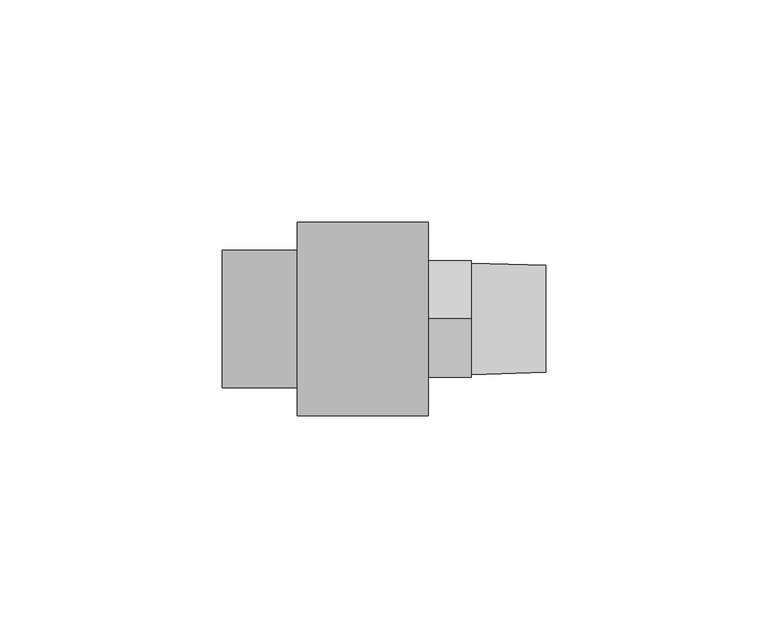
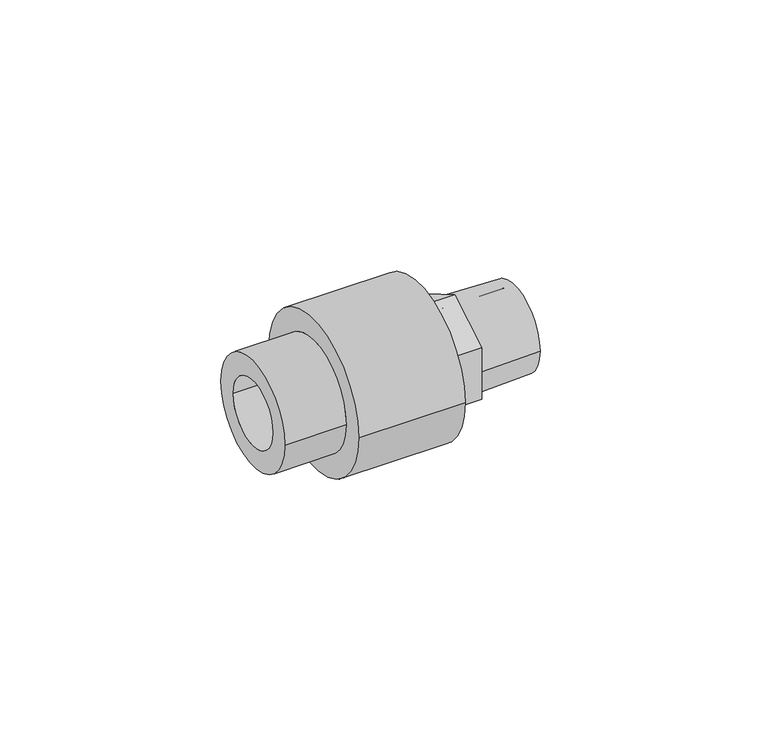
"""IFC4 building model written with IfcOpenShell, lengths in millimetres: pipe fitting geometry, Aquatherm - Fusion Outlet Transition Male : POTABLE BRASS - HEX."""

from ifc_helpers import new_model, si_unit, frame, origin, place, context, project, spatial, polyline, circle_curve, source, transform, mapped, element, save
from ifc_brep_helpers import plane_surface, cylinder_surface, revolved_surface, advanced_brep


def pipe_fitting_e9b5944d(model_context):
    return source(origin(), model_context, "Body", "AdvancedBrep", [
        advanced_brep(
        [(9.1241563, 15.494, 0.0), (9.1241563, -15.494, 0.0), (9.1241563, 9.525, 0.0), (9.1241563, -9.525, 0.0), (29.4441563, 15.494, 0.0), (29.4441563, -15.494, 0.0), (29.4441563, 0.0, -15.1046377), (29.4441563, -13.081, -7.5523189), (29.4441563, -13.081, 7.5523189), (29.4441563, 0.0, 15.1046377), (29.4441563, 13.081, 7.5523189), (29.4441563, 13.081, -7.5523189), (29.4441563, 9.525, 0.0), (29.4441563, -9.525, 0.0), (39.0961563, 0.0, -15.1046377), (39.0961563, 13.081, -7.5523189), (39.0961563, 13.081, 7.5523189), (39.0961563, 0.0, 15.1046377), (39.0961563, -13.081, 7.5523189), (39.0961563, -13.081, -7.5523189), (39.0961563, 12.5560449, 0.0), (39.0961563, -12.5560449, 0.0), (39.0961563, 9.525, 0.0), (39.0961563, -9.525, 0.0), (55.8601563, -9.525, 0.0), (55.8601563, 9.525, 0.0), (55.8601563, -12.0502051, 0.0), (55.8601563, 12.0502051, 0.0)],
        [
            (0, 1, circle_curve(frame((9.1241563, 0.0, 0.0), z_axis=(-1.0, 0.0, 0.0), x_axis=(0.0, -1.0, 0.0)), 15.494)),
            (1, 0, circle_curve(frame((9.1241563, 0.0, 0.0), z_axis=(-1.0, 0.0, 0.0), x_axis=(0.0, -1.0, 0.0)), 15.494)),
            (2, 3, circle_curve(frame((9.1241563, 0.0, 0.0), z_axis=(1.0, 0.0, 0.0), x_axis=(0.0, -1.0, 0.0)), 9.525)),
            (3, 2, circle_curve(frame((9.1241563, 0.0, 0.0), z_axis=(1.0, 0.0, 0.0), x_axis=(0.0, -1.0, 0.0)), 9.525)),
            (4, 5, circle_curve(frame((29.4441563, 0.0, 0.0), z_axis=(1.0, 0.0, 0.0), x_axis=(0.0, -1.0, 0.0)), 15.494)),
            (5, 4, circle_curve(frame((29.4441563, 0.0, 0.0), z_axis=(1.0, 0.0, 0.0), x_axis=(0.0, -1.0, 0.0)), 15.494)),
            (6, 7),
            (7, 8),
            (8, 9),
            (9, 10),
            (10, 11),
            (11, 6),
            (0, 4),
            (5, 1),
            (2, 12),
            (12, 13, circle_curve(frame((29.4441563, 0.0, 0.0), z_axis=(1.0, 0.0, 0.0), x_axis=(0.0, -1.0, 0.0)), 9.525)),
            (13, 3),
            (13, 12, circle_curve(frame((29.4441563, 0.0, 0.0), z_axis=(1.0, 0.0, 0.0), x_axis=(0.0, -1.0, 0.0)), 9.525)),
            (14, 15),
            (15, 16),
            (16, 17),
            (17, 18),
            (18, 19),
            (19, 14),
            (20, 21, circle_curve(frame((39.0961563, 0.0, 0.0), z_axis=(-1.0, 0.0, 0.0), x_axis=(0.0, -1.0, 0.0)), 12.5560449)),
            (21, 20, circle_curve(frame((39.0961563, 0.0, 0.0), z_axis=(-1.0, 0.0, 0.0), x_axis=(0.0, -1.0, 0.0)), 12.5560449)),
            (19, 7),
            (6, 14),
            (18, 8),
            (17, 9),
            (16, 10),
            (15, 11),
            (12, 22),
            (22, 23, circle_curve(frame((39.0961563, 0.0, 0.0), z_axis=(1.0, 0.0, 0.0), x_axis=(0.0, -1.0, 0.0)), 9.525)),
            (23, 13),
            (23, 22, circle_curve(frame((39.0961563, 0.0, 0.0), z_axis=(1.0, 0.0, 0.0), x_axis=(0.0, -1.0, 0.0)), 9.525)),
            (23, 24),
            (24, 25, circle_curve(frame((55.8601563, 0.0, 0.0), z_axis=(1.0, 0.0, 0.0), x_axis=(0.0, -1.0, 0.0)), 9.525)),
            (25, 22),
            (25, 24, circle_curve(frame((55.8601563, 0.0, 0.0), z_axis=(1.0, 0.0, 0.0), x_axis=(0.0, -1.0, 0.0)), 9.525)),
            (24, 26),
            (26, 27, circle_curve(frame((55.8601563, 0.0, 0.0), z_axis=(1.0, 0.0, 0.0), x_axis=(0.0, -1.0, 0.0)), 12.0502051)),
            (27, 25),
            (27, 26, circle_curve(frame((55.8601563, 0.0, 0.0), z_axis=(1.0, 0.0, 0.0), x_axis=(0.0, -1.0, 0.0)), 12.0502051)),
            (26, 21),
            (20, 27),
        ],
        [
            plane_surface(frame((9.1241563, -15.494, 0.0), z_axis=(-1.0, 0.0, 0.0), x_axis=(0.0, 0.0, 1.0))),
            plane_surface(frame((29.4441563, -15.494, 0.0), z_axis=(1.0, 0.0, 0.0), x_axis=(0.0, 0.0, -1.0))),
            cylinder_surface(frame((29.4441563, 0.0, 0.0), z_axis=(-1.0, 0.0, 0.0), x_axis=(0.0, -1.0, 0.0)), 15.494),
            revolved_surface(polyline([(29.444156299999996, -9.525, 0.0), (9.1241563, -9.525, 0.0)]), (11.9969372, 0.0, 0.0), (1.0, 0.0, 0.0)),
            plane_surface(frame((39.0961563, 0.0, -15.1046377), z_axis=(1.0000000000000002, 0.0, 0.0), x_axis=(0.0, 0.8660254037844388, -0.49999999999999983))),
            plane_surface(frame((29.4441563, 0.0, -15.1046377), z_axis=(0.0, -0.49999999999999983, -0.8660254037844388), x_axis=(1.0, 0.0, 0.0))),
            plane_surface(frame((29.4441563, -13.081, -7.5523189), z_axis=(0.0, -1.0, 0.0), x_axis=(1.0, 0.0, 0.0))),
            plane_surface(frame((29.4441563, -13.081, 7.5523189), z_axis=(0.0, -0.4999999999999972, 0.8660254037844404), x_axis=(1.0, 0.0, 0.0))),
            plane_surface(frame((29.4441563, 0.0, 15.1046377), z_axis=(0.0, 0.500000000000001, 0.8660254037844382), x_axis=(1.0, 0.0, 0.0))),
            plane_surface(frame((29.4441563, 13.081, 7.5523189), z_axis=(0.0, 1.0, 0.0), x_axis=(1.0, 0.0, 0.0))),
            plane_surface(frame((29.4441563, 13.081, -7.5523189), z_axis=(0.0, 0.49999999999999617, -0.8660254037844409), x_axis=(1.0, 0.0, 0.0))),
            revolved_surface(polyline([(39.0961563, -9.525, 0.0), (29.4441563, -9.525, 0.0)]), (29.4441563, 0.0, 0.0), (1.0, 0.0, 0.0)),
            revolved_surface(polyline([(55.8601563, -9.525, 0.0), (39.0961563, -9.525, 0.0)]), (90.7332251, 0.0, 0.0), (1.0, 0.0, 0.0)),
            plane_surface(frame((55.8601563, 0.0, 0.0), z_axis=(1.0, 0.0, 0.0), x_axis=(0.0, -1.0, 0.0))),
            revolved_surface(polyline([(39.0961563, -12.5560449, 0.0), (55.8601563, -12.0502051, 0.0)]), (90.7332251, 0.0, 0.0), (1.0, 0.0, 0.0)),
        ],
        [
            (0, [[1, 2], [3, 4]]),
            (1, [[5, 6], [7, 8, 9, 10, 11, 12]]),
            (2, [[-1, 13, -6, 14]]),
            (2, [[-2, -14, -5, -13]]),
            (3, [[-3, 15, 16, 17]]),
            (3, [[-4, -17, 18, -15]]),
            (4, [[19, 20, 21, 22, 23, 24], [25, 26]]),
            (5, [[-24, 27, -7, 28]]),
            (6, [[-23, 29, -8, -27]]),
            (7, [[-22, 30, -9, -29]]),
            (8, [[-21, 31, -10, -30]]),
            (9, [[-20, 32, -11, -31]]),
            (10, [[-19, -28, -12, -32]]),
            (11, [[33, 34, 35, -16]]),
            (11, [[-33, -18, -35, 36]]),
            (12, [[37, 38, 39, -36]]),
            (12, [[-37, -34, -39, 40]]),
            (13, [[-38, 41, 42, 43]]),
            (13, [[-40, -43, 44, -41]]),
            (14, [[-42, 45, -25, 46]]),
            (14, [[-44, -46, -26, -45]]),
        ],
    ),
        advanced_brep(
        [(9.128125, 15.478125, 0.0), (9.128125, -15.478125, 0.0), (9.128125, 9.525, 0.0), (9.128125, -9.525, 0.0), (-16.8875676, -9.525, 0.0), (-16.8875676, 9.525, 0.0), (-16.8875676, -15.478125, 0.0), (-16.8875676, 15.478125, 0.0), (0.0, 15.478125, 0.0), (0.0, -15.478125, 0.0), (29.4441562, 21.7289063, 0.0), (29.4441562, -21.7289063, 0.0), (29.4441562, 15.478125, 0.0), (29.4441562, -15.478125, 0.0), (0.0, -21.7289063, 0.0), (0.0, 21.7289063, 0.0)],
        [
            (0, 1, circle_curve(frame((9.128125, 0.0, 0.0), z_axis=(1.0, 0.0, 0.0), x_axis=(0.0, -1.0, 0.0)), 15.478125)),
            (1, 0, circle_curve(frame((9.128125, 0.0, 0.0), z_axis=(1.0, 0.0, 0.0), x_axis=(0.0, -1.0, 0.0)), 15.478125)),
            (2, 3, circle_curve(frame((9.128125, 0.0, 0.0), z_axis=(-1.0, 0.0, 0.0), x_axis=(0.0, -1.0, 0.0)), 9.525)),
            (3, 2, circle_curve(frame((9.128125, 0.0, 0.0), z_axis=(-1.0, 0.0, 0.0), x_axis=(0.0, -1.0, 0.0)), 9.525)),
            (4, 5, circle_curve(frame((-16.8875676, 0.0, 0.0), z_axis=(-1.0, 0.0, 0.0), x_axis=(0.0, -1.0, 0.0)), 9.525)),
            (5, 2),
            (3, 4),
            (5, 4, circle_curve(frame((-16.8875676, 0.0, 0.0), z_axis=(-1.0, 0.0, 0.0), x_axis=(0.0, -1.0, 0.0)), 9.525)),
            (6, 7, circle_curve(frame((-16.8875676, 0.0, 0.0), z_axis=(1.0, 0.0, 0.0), x_axis=(0.0, -1.0, 0.0)), 15.478125)),
            (7, 8),
            (8, 9, circle_curve(frame((0.0, 0.0, 0.0), z_axis=(-1.0, 0.0, 0.0), x_axis=(0.0, -1.0, 0.0)), 15.478125)),
            (9, 6),
            (7, 6, circle_curve(frame((-16.8875676, 0.0, 0.0), z_axis=(1.0, 0.0, 0.0), x_axis=(0.0, -1.0, 0.0)), 15.478125)),
            (9, 8, circle_curve(frame((0.0, 0.0, 0.0), z_axis=(-1.0, 0.0, 0.0), x_axis=(0.0, -1.0, 0.0)), 15.478125)),
            (10, 11, circle_curve(frame((29.4441562, 0.0, 0.0), z_axis=(1.0, 0.0, 0.0), x_axis=(0.0, -1.0, 0.0)), 21.7289063)),
            (11, 10, circle_curve(frame((29.4441562, 0.0, 0.0), z_axis=(1.0, 0.0, 0.0), x_axis=(0.0, -1.0, 0.0)), 21.7289063)),
            (12, 13, circle_curve(frame((29.4441562, 0.0, 0.0), z_axis=(-1.0, 0.0, 0.0), x_axis=(0.0, -1.0, 0.0)), 15.478125)),
            (13, 12, circle_curve(frame((29.4441562, 0.0, 0.0), z_axis=(-1.0, 0.0, 0.0), x_axis=(0.0, -1.0, 0.0)), 15.478125)),
            (13, 1),
            (0, 12),
            (11, 14),
            (14, 15, circle_curve(frame((0.0, 0.0, 0.0), z_axis=(1.0, 0.0, 0.0), x_axis=(0.0, -1.0, 0.0)), 21.7289063)),
            (15, 10),
            (15, 14, circle_curve(frame((0.0, 0.0, 0.0), z_axis=(1.0, 0.0, 0.0), x_axis=(0.0, -1.0, 0.0)), 21.7289063)),
        ],
        [
            plane_surface(frame((9.128125, -9.525, 0.0), z_axis=(1.0, 0.0, 0.0), x_axis=(0.0, 0.0, 1.0))),
            revolved_surface(polyline([(9.128125, -9.525, 0.0), (-16.8875676, -9.525, 0.0)]), (9.128125, 0.0, 0.0), (1.0, 0.0, 0.0)),
            cylinder_surface(frame((0.0, 0.0, 0.0), z_axis=(-1.0, 0.0, 0.0), x_axis=(0.0, -1.0, 0.0)), 15.478125),
            plane_surface(frame((29.4441562, -15.478125, 0.0), z_axis=(1.0, 0.0, 0.0), x_axis=(0.0, 0.0, 1.0))),
            revolved_surface(polyline([(29.4441562, -15.478125, 0.0), (9.128125, -15.478125, 0.0)]), (29.4441562, 0.0, 0.0), (1.0, 0.0, 0.0)),
            cylinder_surface(frame((0.0, 0.0, 0.0), z_axis=(-1.0, 0.0, 0.0), x_axis=(0.0, -1.0, 0.0)), 21.7289063),
            plane_surface(frame((-16.8875676, -9.525, 0.0), z_axis=(-1.0, 0.0, 0.0), x_axis=(0.0, 0.0, -1.0))),
            plane_surface(frame((0.0, -15.478125, 0.0), z_axis=(-1.0, 0.0, 0.0), x_axis=(0.0, 0.0, -1.0))),
        ],
        [
            (0, [[1, 2], [3, 4]]),
            (1, [[5, 6, -4, 7]]),
            (1, [[8, -7, -3, -6]]),
            (2, [[9, 10, 11, 12]]),
            (2, [[13, -12, 14, -10]]),
            (3, [[15, 16], [17, 18]]),
            (4, [[-18, 19, -1, 20]]),
            (4, [[-17, -20, -2, -19]]),
            (5, [[-16, 21, 22, 23]]),
            (5, [[-15, -23, 24, -21]]),
            (6, [[-9, -13], [-5, -8]]),
            (7, [[-22, -24], [-11, -14]]),
        ],
    ),
    ])


if __name__ == "__main__":
    model = new_model("IFC4")
    model_context = context("Model", 3, world=origin())
    ifc_project = project(units=[si_unit("LENGTHUNIT", "METRE", prefix="MILLI")], contexts=[model_context])
    site = spatial("IfcSite", under=ifc_project)
    building = spatial("IfcBuilding", under=site)
    placement = place(None, origin())
    pipe_fitting_shape = pipe_fitting_e9b5944d(model_context)
    element("IfcPipeFitting", 1, ObjectType="Aquatherm - Fusion Outlet Transition Male : POTABLE BRASS - HEX", at=placement, inside=building, context=model_context, shape_type="MappedRepresentation", body=[
        mapped(pipe_fitting_shape, transform((0.0, 0.0, 0.0), x_axis=(1.0, 0.0, 0.0), y_axis=(0.0, 1.0, 0.0), z_axis=(0.0, 0.0, 1.0))),
    ])
    save(model, "model.ifc")
